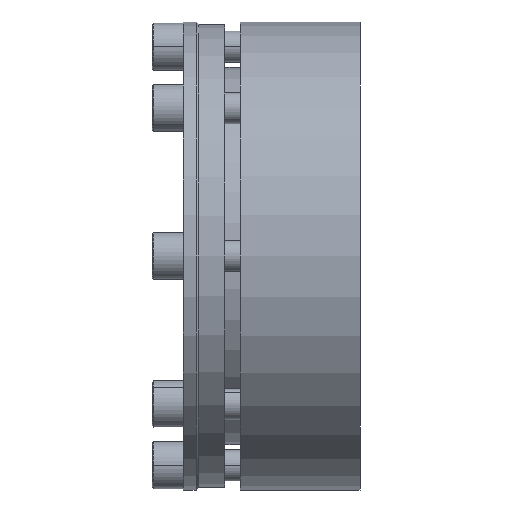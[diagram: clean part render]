
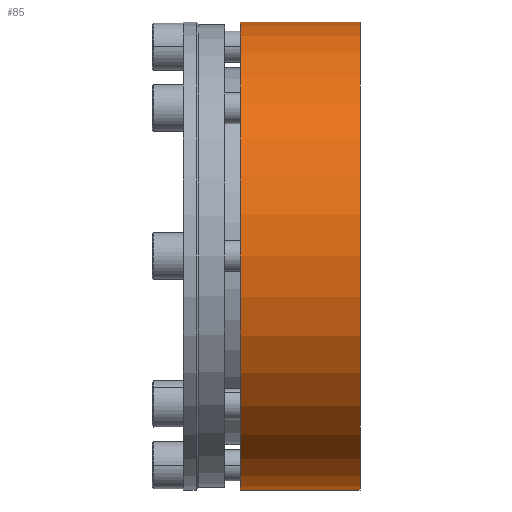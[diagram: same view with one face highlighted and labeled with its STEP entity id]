
A CAD part, front view. The second image highlights one B-rep face of the part: STEP entity #85.
In plain terms, the highlighted cylindrical face has radius 90 mm (diameter 180 mm), a partial arc.
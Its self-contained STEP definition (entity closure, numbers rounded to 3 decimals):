
#3 = ORIENTED_EDGE ( 'NONE', *, *, #32, .F. ) ;
#29 = VERTEX_POINT ( 'NONE', #1830 ) ;
#30 = VERTEX_POINT ( 'NONE', #1829 ) ;
#32 = EDGE_CURVE ( 'NONE', #30, #33, #1828, .T. ) ;
#33 = VERTEX_POINT ( 'NONE', #1892 ) ;
#36 = VERTEX_POINT ( 'NONE', #1886 ) ;
#38 = EDGE_CURVE ( 'NONE', #29, #36, #1885, .T. ) ;
#85 = ADVANCED_FACE ( 'NONE', ( #1984 ), #1983, .T. ) ;
#86 = EDGE_LOOP ( 'NONE', ( #3, #5100, #5101, #5097 ) ) ;
#1825 = DIRECTION ( 'NONE',  ( -1., 0., 0. ) ) ;
#1826 = VECTOR ( 'NONE', #1825, 1000. ) ;
#1827 = CARTESIAN_POINT ( 'NONE',  ( 0., 0., -90. ) ) ;
#1828 = LINE ( 'NONE', #1827, #1826 ) ;
#1829 = CARTESIAN_POINT ( 'NONE',  ( 68., 0., -90. ) ) ;
#1830 = CARTESIAN_POINT ( 'NONE',  ( 68., 0., 90. ) ) ;
#1882 = DIRECTION ( 'NONE',  ( -1., 0., 0. ) ) ;
#1883 = VECTOR ( 'NONE', #1882, 1000. ) ;
#1884 = CARTESIAN_POINT ( 'NONE',  ( 0., 0., 90. ) ) ;
#1885 = LINE ( 'NONE', #1884, #1883 ) ;
#1886 = CARTESIAN_POINT ( 'NONE',  ( 22., 0., 90. ) ) ;
#1892 = CARTESIAN_POINT ( 'NONE',  ( 22., 0., -90. ) ) ;
#1978 = DIRECTION ( 'NONE',  ( 0., 0., 1. ) ) ;
#1979 = DIRECTION ( 'NONE',  ( -1., 0., 0. ) ) ;
#1980 = CARTESIAN_POINT ( 'NONE',  ( 0., 0., 0. ) ) ;
#1981 = AXIS2_PLACEMENT_3D ( 'NONE', #1980, #1979, #1978 ) ;
#1983 = CYLINDRICAL_SURFACE ( 'NONE', #1981, 90. ) ;
#1984 = FACE_OUTER_BOUND ( 'NONE', #86, .T. ) ;
#4920 = DIRECTION ( 'NONE',  ( 0., 0., 1. ) ) ;
#4921 = DIRECTION ( 'NONE',  ( -1., 0., 0. ) ) ;
#4922 = CARTESIAN_POINT ( 'NONE',  ( 22., 0., 0. ) ) ;
#4923 = AXIS2_PLACEMENT_3D ( 'NONE', #4922, #4921, #4920 ) ;
#4924 = CIRCLE ( 'NONE', #4923, 90. ) ;
#4940 = DIRECTION ( 'NONE',  ( 0., 0., 1. ) ) ;
#4941 = DIRECTION ( 'NONE',  ( -1., 0., 0. ) ) ;
#4942 = CARTESIAN_POINT ( 'NONE',  ( 68., 0., 0. ) ) ;
#4943 = AXIS2_PLACEMENT_3D ( 'NONE', #4942, #4941, #4940 ) ;
#4944 = CIRCLE ( 'NONE', #4943, 90. ) ;
#5090 = EDGE_CURVE ( 'NONE', #30, #29, #4944, .T. ) ;
#5097 = ORIENTED_EDGE ( 'NONE', *, *, #5099, .F. ) ;
#5099 = EDGE_CURVE ( 'NONE', #33, #36, #4924, .T. ) ;
#5100 = ORIENTED_EDGE ( 'NONE', *, *, #5090, .T. ) ;
#5101 = ORIENTED_EDGE ( 'NONE', *, *, #38, .T. ) ;
